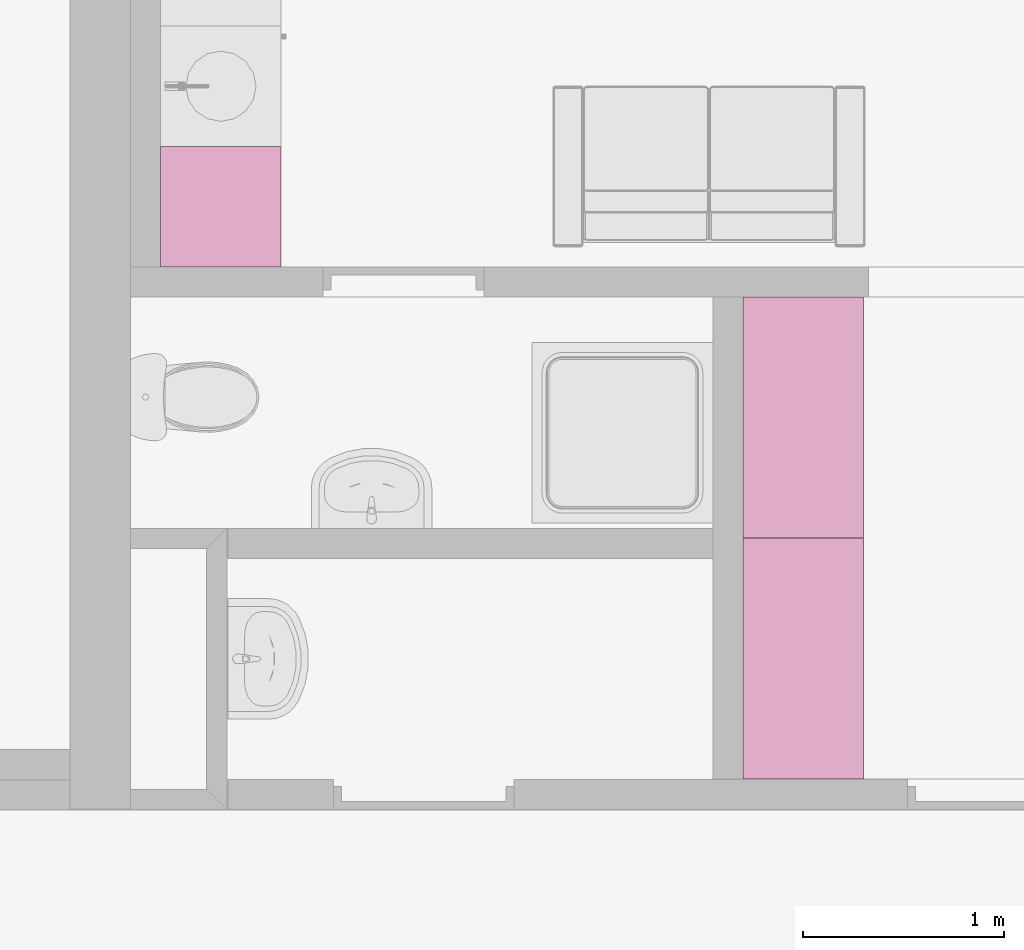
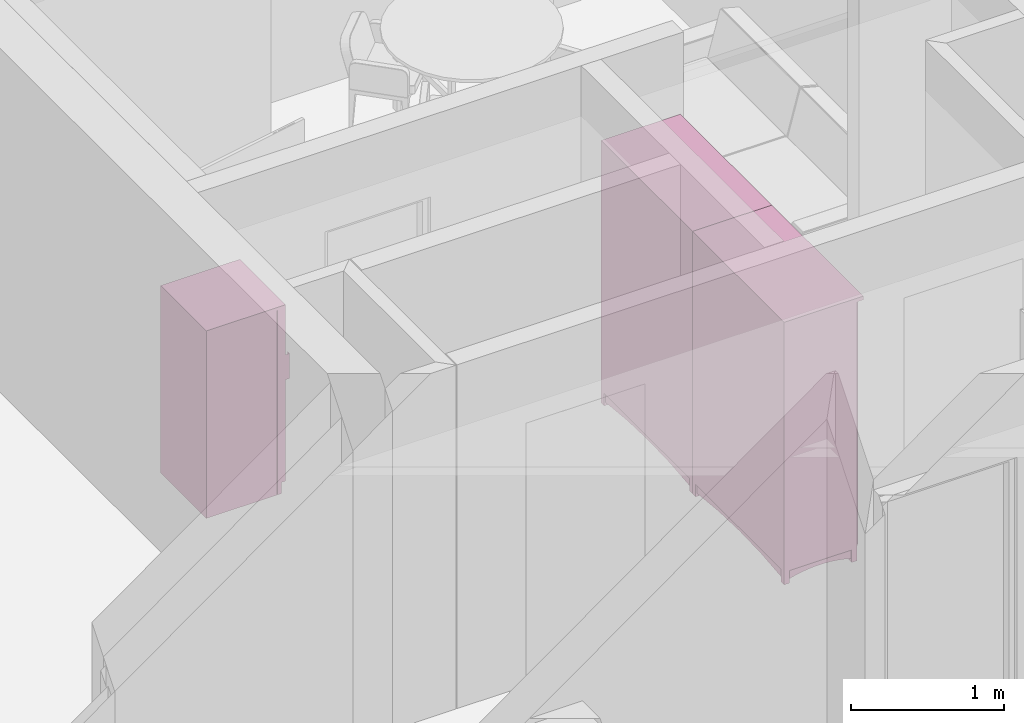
# One storey, part 122 of 172: 3 furnishings.
"""IFC2X3 building model written with IfcOpenShell, lengths in millimetres."""

from ifc_helpers import new_model, entity, si_unit, converted_unit, money_unit, direction, frame, origin_with_axes, place, context, subcontext, project, spatial, open_shell, faceted_brep, surface_model, source, transform, mapped, material, material_list, type_object, element, save


model = new_model("IFC2X3")

# Units and contexts
model_context = context("Model", 3, precision=1e-05, world=origin_with_axes(), true_north=direction((0.0, 1.0)))
body_context = subcontext(model_context, "Body", "Model", "MODEL_VIEW")
ifc_project = project(units=[si_unit("LENGTHUNIT", "METRE", prefix="MILLI"), si_unit("AREAUNIT", "SQUARE_METRE"), si_unit("VOLUMEUNIT", "CUBIC_METRE"), converted_unit("PLANEANGLEUNIT", "DEGREE", entity("IfcPlaneAngleMeasure", 0.0174532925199), si_unit("PLANEANGLEUNIT", "RADIAN"), dimensions=[0, 0, 0, 0, 0, 0, 0]), si_unit("SOLIDANGLEUNIT", "STERADIAN"), money_unit("USD"), converted_unit("TIMEUNIT", "Year", entity("IfcTimeMeasure", 31556926.0), si_unit("TIMEUNIT", "SECOND"), dimensions=[0, 0, 0, 0, 0, 0, 0]), si_unit("MASSUNIT", "GRAM"), si_unit("THERMODYNAMICTEMPERATUREUNIT", "DEGREE_CELSIUS"), si_unit("LUMINOUSINTENSITYUNIT", "LUMEN")], contexts=[model_context])

# Site, building, storey
site_placement = place(None, origin_with_axes())
site = spatial("IfcSite", under=ifc_project, at=site_placement, Name="Site", CompositionType="ELEMENT")
building_placement = place(site_placement, origin_with_axes())
building = spatial("IfcBuilding", under=site, at=building_placement, Name="Building", CompositionType="ELEMENT")
storey_placement = place(building_placement, frame((0.0, 0.0, 3200.0), z_axis=(0.0, 0.0, 1.0), x_axis=(1.0, 0.0, 0.0)))
storey = spatial("IfcBuildingStorey", under=building, at=storey_placement, Name="3KORRUS", CompositionType="ELEMENT", Elevation=3200.0)

# Furnishings
ifc_material = material(Name="Background")
ifc_material_list = material_list([ifc_material])
furnishing_element_type_1 = type_object("IfcFurnishingElementType", Name="Cupboard 19")
shared_shape_1 = source(origin_with_axes(), body_context, "Body", "Brep", [
    faceted_brep([(1180.0, 600.0, 120.0), (1180.0, 600.0, 2050.0), (1180.0, 580.0, 2050.0), (1180.0, 580.0, 120.0), (20.0, 600.0, 120.0), (20.0, 600.0, 2050.0), (20.0, 580.0, 2050.0), (20.0, 580.0, 120.0)], [[[0, 1, 2, 3]], [[4, 5, 1, 0]], [[1, 5, 6, 2]], [[3, 2, 6, 7]], [[0, 3, 7, 4]], [[7, 6, 5, 4]]]),
    faceted_brep([(0.0, 50.0, 100.0), (0.0, 600.0, 100.0), (20.0, 600.0, 100.0), (20.0, 50.0, 100.0), (0.0, 50.0, 2070.0), (0.0, 600.0, 2070.0), (20.0, 600.0, 2070.0), (20.0, 50.0, 2070.0)], [[[0, 1, 2, 3]], [[0, 4, 5, 1]], [[1, 5, 6, 2]], [[2, 6, 7, 3]], [[3, 7, 4, 0]], [[7, 6, 5, 4]]]),
    faceted_brep([(1180.0, 50.0, 100.0), (1180.0, 600.0, 100.0), (1200.0, 600.0, 100.0), (1200.0, 50.0, 100.0), (1180.0, 50.0, 2070.0), (1180.0, 600.0, 2070.0), (1200.0, 600.0, 2070.0), (1200.0, 50.0, 2070.0)], [[[0, 1, 2, 3]], [[0, 4, 5, 1]], [[1, 5, 6, 2]], [[2, 6, 7, 3]], [[3, 7, 4, 0]], [[7, 6, 5, 4]]]),
    faceted_brep([(20.0, 50.0, 100.0), (20.0, 600.0, 100.0), (1180.0, 600.0, 100.0), (1180.0, 50.0, 100.0), (20.0, 50.0, 120.0), (20.0, 600.0, 120.0), (1180.0, 600.0, 120.0), (1180.0, 50.0, 120.0)], [[[0, 1, 2, 3]], [[0, 4, 5, 1]], [[1, 5, 6, 2]], [[2, 6, 7, 3]], [[3, 7, 4, 0]], [[7, 6, 5, 4]]]),
    faceted_brep([(20.0, 50.0, 2050.0), (20.0, 600.0, 2050.0), (1180.0, 600.0, 2050.0), (1180.0, 50.0, 2050.0), (20.0, 50.0, 2070.0), (20.0, 600.0, 2070.0), (1180.0, 600.0, 2070.0), (1180.0, 50.0, 2070.0)], [[[0, 1, 2, 3]], [[0, 4, 5, 1]], [[1, 5, 6, 2]], [[2, 6, 7, 3]], [[3, 7, 4, 0]], [[7, 6, 5, 4]]]),
    faceted_brep([(0.0, 600.0, 2070.0), (0.0, 0.0, 2070.0), (0.0, 0.0, 2100.0), (0.0, 600.0, 2100.0), (1200.0, 600.0, 2070.0), (1200.0, 0.0, 2070.0), (1200.0, 0.0, 2100.0), (1200.0, 600.0, 2100.0)], [[[0, 1, 2, 3]], [[0, 4, 5, 1]], [[1, 5, 6, 2]], [[3, 2, 6, 7]], [[4, 0, 3, 7]], [[5, 4, 7, 6]]]),
    faceted_brep([(1160.0, 590.0, 25.0), (1160.0, 570.0, 25.0), (880.627, 570.0, 53.115), (880.627, 590.0, 53.115), (1160.0, 590.0, 100.0), (1160.0, 570.0, 100.0), (40.0, 570.0, 100.0), (40.0, 570.0, 25.0), (319.373, 570.0, 53.115), (600.0, 570.0, 62.5), (600.0, 590.0, 62.5), (319.373, 590.0, 53.115), (40.0, 590.0, 25.0), (40.0, 590.0, 100.0)], [[[0, 1, 2, 3]], [[4, 5, 1, 0]], [[1, 5, 6, 7, 8, 9, 2]], [[3, 2, 9, 10]], [[0, 3, 10, 11, 12, 13, 4]], [[13, 6, 5, 4]], [[12, 7, 6, 13]], [[11, 8, 7, 12]], [[10, 9, 8, 11]]]),
    faceted_brep([(1160.0, 80.0, 25.0), (1160.0, 60.0, 25.0), (880.627, 60.0, 53.115), (880.627, 80.0, 53.115), (1160.0, 80.0, 100.0), (1160.0, 60.0, 100.0), (40.0, 60.0, 100.0), (40.0, 60.0, 25.0), (319.373, 60.0, 53.115), (600.0, 60.0, 62.5), (600.0, 80.0, 62.5), (319.373, 80.0, 53.115), (40.0, 80.0, 25.0), (40.0, 80.0, 100.0)], [[[0, 1, 2, 3]], [[4, 5, 1, 0]], [[1, 5, 6, 7, 8, 9, 2]], [[3, 2, 9, 10]], [[0, 3, 10, 11, 12, 13, 4]], [[13, 6, 5, 4]], [[12, 7, 6, 13]], [[11, 8, 7, 12]], [[10, 9, 8, 11]]]),
    faceted_brep([(1190.0, 90.0, 25.0), (1170.0, 90.0, 25.0), (1170.0, 141.266, 38.072), (1190.0, 141.266, 38.072), (1190.0, 90.0, 100.0), (1170.0, 90.0, 100.0), (1170.0, 560.0, 100.0), (1170.0, 560.0, 25.0), (1170.0, 508.734, 38.072), (1170.0, 456.752, 47.92), (1170.0, 404.257, 54.508), (1170.0, 351.453, 57.808), (1170.0, 298.547, 57.808), (1170.0, 245.743, 54.508), (1170.0, 193.248, 47.92), (1190.0, 193.248, 47.92), (1190.0, 245.743, 54.508), (1190.0, 298.547, 57.808), (1190.0, 351.453, 57.808), (1190.0, 404.257, 54.508), (1190.0, 456.752, 47.92), (1190.0, 508.734, 38.072), (1190.0, 560.0, 25.0), (1190.0, 560.0, 100.0)], [[[0, 1, 2, 3]], [[4, 5, 1, 0]], [[1, 5, 6, 7, 8, 9, 10, 11, 12, 13, 14, 2]], [[3, 2, 14, 15]], [[0, 3, 15, 16, 17, 18, 19, 20, 21, 22, 23, 4]], [[23, 6, 5, 4]], [[22, 7, 6, 23]], [[21, 8, 7, 22]], [[20, 9, 8, 21]], [[19, 10, 9, 20]], [[18, 11, 10, 19]], [[17, 12, 11, 18]], [[16, 13, 12, 17]], [[15, 14, 13, 16]]]),
    faceted_brep([(30.0, 90.0, 25.0), (10.0, 90.0, 25.0), (10.0, 141.266, 38.072), (30.0, 141.266, 38.072), (30.0, 90.0, 100.0), (10.0, 90.0, 100.0), (10.0, 560.0, 100.0), (10.0, 560.0, 25.0), (10.0, 508.734, 38.072), (10.0, 456.752, 47.92), (10.0, 404.257, 54.508), (10.0, 351.453, 57.808), (10.0, 298.547, 57.808), (10.0, 245.743, 54.508), (10.0, 193.248, 47.92), (30.0, 193.248, 47.92), (30.0, 245.743, 54.508), (30.0, 298.547, 57.808), (30.0, 351.453, 57.808), (30.0, 404.257, 54.508), (30.0, 456.752, 47.92), (30.0, 508.734, 38.072), (30.0, 560.0, 25.0), (30.0, 560.0, 100.0)], [[[0, 1, 2, 3]], [[4, 5, 1, 0]], [[1, 5, 6, 7, 8, 9, 10, 11, 12, 13, 14, 2]], [[3, 2, 14, 15]], [[0, 3, 15, 16, 17, 18, 19, 20, 21, 22, 23, 4]], [[23, 6, 5, 4]], [[22, 7, 6, 23]], [[21, 8, 7, 22]], [[20, 9, 8, 21]], [[19, 10, 9, 20]], [[18, 11, 10, 19]], [[17, 12, 11, 18]], [[16, 13, 12, 17]], [[15, 14, 13, 16]]]),
    faceted_brep([(1160.0, 560.0, 0.0), (1160.0, 560.0, 100.0), (1160.0, 600.0, 100.0), (1160.0, 600.0, 0.0), (1200.0, 560.0, 0.0), (1200.0, 560.0, 100.0), (1200.0, 600.0, 100.0), (1200.0, 600.0, 0.0)], [[[0, 1, 2, 3]], [[4, 5, 1, 0]], [[1, 5, 6, 2]], [[3, 2, 6, 7]], [[0, 3, 7, 4]], [[7, 6, 5, 4]]]),
    faceted_brep([(0.0, 560.0, 0.0), (0.0, 560.0, 100.0), (0.0, 600.0, 100.0), (0.0, 600.0, 0.0), (40.0, 560.0, 0.0), (40.0, 560.0, 100.0), (40.0, 600.0, 100.0), (40.0, 600.0, 0.0)], [[[0, 1, 2, 3]], [[4, 5, 1, 0]], [[1, 5, 6, 2]], [[3, 2, 6, 7]], [[0, 3, 7, 4]], [[7, 6, 5, 4]]]),
    faceted_brep([(1160.0, 50.0, 0.0), (1160.0, 50.0, 100.0), (1160.0, 90.0, 100.0), (1160.0, 90.0, 0.0), (1200.0, 50.0, 0.0), (1200.0, 50.0, 100.0), (1200.0, 90.0, 100.0), (1200.0, 90.0, 0.0)], [[[0, 1, 2, 3]], [[4, 5, 1, 0]], [[1, 5, 6, 2]], [[3, 2, 6, 7]], [[0, 3, 7, 4]], [[7, 6, 5, 4]]]),
    faceted_brep([(0.0, 50.0, 0.0), (0.0, 50.0, 100.0), (0.0, 90.0, 100.0), (0.0, 90.0, 0.0), (40.0, 50.0, 0.0), (40.0, 50.0, 100.0), (40.0, 90.0, 100.0), (40.0, 90.0, 0.0)], [[[0, 1, 2, 3]], [[4, 5, 1, 0]], [[1, 5, 6, 2]], [[3, 2, 6, 7]], [[0, 3, 7, 4]], [[7, 6, 5, 4]]]),
    faceted_brep([(1180.0, 580.0, 587.5), (1180.0, 580.0, 607.5), (1180.0, 50.0, 607.5), (1180.0, 50.0, 587.5), (20.0, 580.0, 587.5), (20.0, 580.0, 607.5), (20.0, 50.0, 607.5), (20.0, 50.0, 587.5)], [[[0, 1, 2, 3]], [[4, 5, 1, 0]], [[1, 5, 6, 2]], [[3, 2, 6, 7]], [[0, 3, 7, 4]], [[7, 6, 5, 4]]]),
    faceted_brep([(1180.0, 580.0, 1075.0), (1180.0, 580.0, 1095.0), (1180.0, 50.0, 1095.0), (1180.0, 50.0, 1075.0), (20.0, 580.0, 1075.0), (20.0, 580.0, 1095.0), (20.0, 50.0, 1095.0), (20.0, 50.0, 1075.0)], [[[0, 1, 2, 3]], [[4, 5, 1, 0]], [[1, 5, 6, 2]], [[3, 2, 6, 7]], [[0, 3, 7, 4]], [[7, 6, 5, 4]]]),
    faceted_brep([(1180.0, 580.0, 1562.5), (1180.0, 580.0, 1582.5), (1180.0, 50.0, 1582.5), (1180.0, 50.0, 1562.5), (20.0, 580.0, 1562.5), (20.0, 580.0, 1582.5), (20.0, 50.0, 1582.5), (20.0, 50.0, 1562.5)], [[[0, 1, 2, 3]], [[4, 5, 1, 0]], [[1, 5, 6, 2]], [[3, 2, 6, 7]], [[0, 3, 7, 4]], [[7, 6, 5, 4]]]),
    faceted_brep([(1189.5, 50.0, 110.5), (600.5, 50.0, 110.5), (600.5, 50.0, 2059.5), (1189.5, 50.0, 2059.5), (1189.5, 40.0, 110.5), (600.5, 40.0, 110.5), (600.5, 40.0, 2059.5), (1189.5, 40.0, 2059.5), (1179.5, 30.0, 120.5), (610.5, 30.0, 120.5), (610.5, 30.0, 2049.5), (1179.5, 30.0, 2049.5)], [[[0, 1, 2, 3]], [[0, 4, 5, 1]], [[1, 5, 6, 2]], [[2, 6, 7, 3]], [[3, 7, 4, 0]], [[4, 8, 9, 5]], [[5, 9, 10, 6]], [[6, 10, 11, 7]], [[7, 11, 8, 4]], [[10, 9, 8, 11]]]),
    faceted_brep([(599.5, 50.0, 110.5), (10.5, 50.0, 110.5), (10.5, 50.0, 2059.5), (599.5, 50.0, 2059.5), (599.5, 40.0, 110.5), (10.5, 40.0, 110.5), (10.5, 40.0, 2059.5), (599.5, 40.0, 2059.5), (589.5, 30.0, 120.5), (20.5, 30.0, 120.5), (20.5, 30.0, 2049.5), (589.5, 30.0, 2049.5)], [[[0, 1, 2, 3]], [[0, 4, 5, 1]], [[1, 5, 6, 2]], [[2, 6, 7, 3]], [[3, 7, 4, 0]], [[4, 8, 9, 5]], [[5, 9, 10, 6]], [[6, 10, 11, 7]], [[7, 11, 8, 4]], [[10, 9, 8, 11]]]),
    faceted_brep([(539.608, 30.0, 954.0), (538.0, 30.0, 960.0), (539.608, 30.0, 966.0), (544.0, 30.0, 970.392), (550.0, 30.0, 972.0), (556.0, 30.0, 970.392), (560.392, 30.0, 966.0), (562.0, 30.0, 960.0), (560.392, 30.0, 954.0), (556.0, 30.0, 949.608), (550.0, 30.0, 948.0), (544.0, 30.0, 949.608), (539.608, 5.0, 954.0), (538.0, 5.0, 960.0), (539.608, 5.0, 966.0), (544.0, 5.0, 970.392), (550.0, 5.0, 972.0), (556.0, 5.0, 970.392), (560.392, 5.0, 966.0), (562.0, 5.0, 960.0), (560.392, 5.0, 954.0), (556.0, 5.0, 949.608), (550.0, 5.0, 948.0), (544.0, 5.0, 949.608)], [[[0, 1, 2, 3, 4, 5, 6, 7, 8, 9, 10, 11]], [[0, 12, 13, 1]], [[1, 13, 14, 2]], [[2, 14, 15, 3]], [[3, 15, 16, 4]], [[4, 16, 17, 5]], [[5, 17, 18, 6]], [[6, 18, 19, 7]], [[7, 19, 20, 8]], [[8, 20, 21, 9]], [[9, 21, 22, 10]], [[10, 22, 23, 11]], [[11, 23, 12, 0]], [[12, 23, 22, 21, 20, 19, 18, 17, 16, 15, 14, 13]]]),
    faceted_brep([(660.392, 30.0, 954.0), (656.0, 30.0, 949.608), (650.0, 30.0, 948.0), (644.0, 30.0, 949.608), (639.608, 30.0, 954.0), (638.0, 30.0, 960.0), (639.608, 30.0, 966.0), (644.0, 30.0, 970.392), (650.0, 30.0, 972.0), (656.0, 30.0, 970.392), (660.392, 30.0, 966.0), (662.0, 30.0, 960.0), (660.392, 5.0, 954.0), (656.0, 5.0, 949.608), (650.0, 5.0, 948.0), (644.0, 5.0, 949.608), (639.608, 5.0, 954.0), (638.0, 5.0, 960.0), (639.608, 5.0, 966.0), (644.0, 5.0, 970.392), (650.0, 5.0, 972.0), (656.0, 5.0, 970.392), (660.392, 5.0, 966.0), (662.0, 5.0, 960.0)], [[[0, 1, 2, 3, 4, 5, 6, 7, 8, 9, 10, 11]], [[1, 0, 12, 13]], [[2, 1, 13, 14]], [[3, 2, 14, 15]], [[4, 3, 15, 16]], [[5, 4, 16, 17]], [[6, 5, 17, 18]], [[7, 6, 18, 19]], [[8, 7, 19, 20]], [[9, 8, 20, 21]], [[10, 9, 21, 22]], [[11, 10, 22, 23]], [[0, 11, 23, 12]], [[12, 23, 22, 21, 20, 19, 18, 17, 16, 15, 14, 13]]]),
])
for number, where, z_axis, x_axis, name in (
    (1, (-14340.4426429, -11589.2398994, 0.0), (0.0, 0.0, 1.0), (0.0, 1.0, 0.0), "FU - 014"),
    (2, (-14340.4426429, -10389.2398994, 0.0), (0.0, 0.0, 1.0), (0.0, 1.0, 0.0), "FU - 014"),
):
    element("IfcFurnishingElement", number, at=place(storey_placement, frame(where, z_axis=z_axis, x_axis=x_axis)), inside=storey, type_object=furnishing_element_type_1, material=ifc_material_list, Name=name, context=body_context, shape_type="MappedRepresentation", body=[
        mapped(shared_shape_1, transform((0.0, 0.0, 0.0))),
    ])
furnishing_element_type_2 = type_object("IfcFurnishingElementType", Name="Refrigerator 19")
shared_shape_2 = source(origin_with_axes(), body_context, "Body", "SurfaceModel", [
    faceted_brep([(0.0, 0.0, 1475.0), (0.0, 0.0, 1500.0), (-600.0, 0.0, 1500.0), (-600.0, 0.0, 1475.0), (0.0, 600.0, 1475.0), (0.0, 600.0, 1500.0), (-600.0, 600.0, 1500.0), (-600.0, 600.0, 1475.0)], [[[0, 1, 2, 3]], [[4, 5, 1, 0]], [[1, 5, 6, 2]], [[3, 2, 6, 7]], [[0, 3, 7, 4]], [[7, 6, 5, 4]]]),
    faceted_brep([(0.0, 65.0, 0.0), (0.0, 65.0, 1475.0), (-600.0, 65.0, 1475.0), (-600.0, 65.0, 0.0), (0.0, 600.0, 0.0), (0.0, 600.0, 1475.0), (-600.0, 600.0, 1475.0), (-600.0, 600.0, 0.0)], [[[0, 1, 2, 3]], [[4, 5, 1, 0]], [[1, 5, 6, 2]], [[3, 2, 6, 7]], [[0, 3, 7, 4]], [[7, 6, 5, 4]]]),
    faceted_brep([(0.0, 30.0, 0.0), (0.0, 30.0, 90.0), (-600.0, 30.0, 90.0), (-600.0, 30.0, 0.0), (0.0, 60.0, 0.0), (0.0, 60.0, 90.0), (-600.0, 60.0, 90.0), (-600.0, 60.0, 0.0)], [[[0, 1, 2, 3]], [[4, 5, 1, 0]], [[1, 5, 6, 2]], [[3, 2, 6, 7]], [[0, 3, 7, 4]], [[7, 6, 5, 4]]]),
    faceted_brep([(0.0, 60.0, 90.0), (0.0, 0.0, 90.0), (-600.0, 0.0, 90.0), (-600.0, 60.0, 90.0), (0.0, 60.0, 1474.5), (0.0, 0.0, 1474.5), (-600.0, 0.0, 1474.5), (-600.0, 60.0, 1474.5)], [[[0, 1, 2, 3]], [[4, 5, 1, 0]], [[1, 5, 6, 2]], [[3, 2, 6, 7]], [[0, 3, 7, 4]], [[7, 6, 5, 4]]]),
    surface_model("IfcShellBasedSurfaceModel", [(-600.0, -30.0, 900.0), (-600.0, 0.0, 900.0), (-600.0, 0.0, 1100.0), (-600.0, -30.0, 1100.0)], [open_shell([[[0, 1, 2, 3]]])]),
    surface_model("IfcShellBasedSurfaceModel", [(-600.0, -30.0, 900.0), (-570.0, -30.0, 900.0), (-570.0, -30.0, 1100.0), (-600.0, -30.0, 1100.0)], [open_shell([[[0, 1, 2, 3]]])]),
])
furnishing_placement = place(storey_placement, frame((-17240.2967033, -8439.57320461, 0.0), z_axis=(0.0, 0.0, 1.0), x_axis=(0.0, 1.0, 0.0)))
element("IfcFurnishingElement", 3, at=furnishing_placement, inside=storey, type_object=furnishing_element_type_2, material=ifc_material_list, Name="FU - 007", context=body_context, shape_type="MappedRepresentation", body=[
    mapped(shared_shape_2, transform((0.0, 0.0, 0.0))),
])

save(model, "model.ifc")
